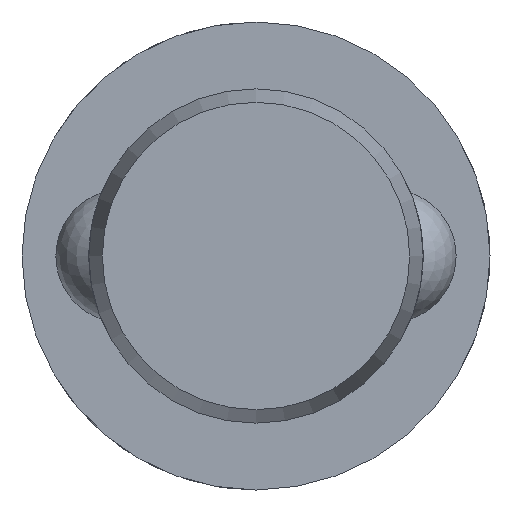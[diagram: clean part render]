
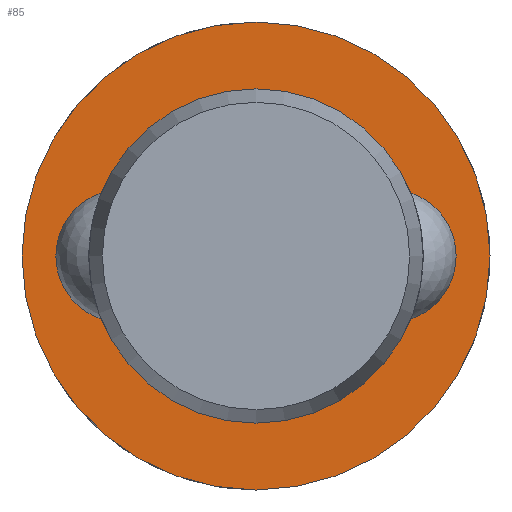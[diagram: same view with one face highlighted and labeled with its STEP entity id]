
A CAD part, left-side view. The second image highlights one B-rep face of the part: STEP entity #85.
In plain terms, the highlighted planar face has unit normal (-1, 0, 0).
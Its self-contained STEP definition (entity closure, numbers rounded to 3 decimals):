
#85 = ADVANCED_FACE( '', ( #130, #131 ), #132, .F. );
#130 = FACE_OUTER_BOUND( '', #200, .T. );
#131 = FACE_BOUND( '', #201, .T. );
#132 = PLANE( '', #202 );
#200 = EDGE_LOOP( '', ( #315 ) );
#201 = EDGE_LOOP( '', ( #316 ) );
#202 = AXIS2_PLACEMENT_3D( '', #317, #318, #319 );
#315 = ORIENTED_EDGE( '', *, *, #458, .F. );
#316 = ORIENTED_EDGE( '', *, *, #455, .T. );
#317 = CARTESIAN_POINT( '', ( 129.6, 5., 0. ) );
#318 = DIRECTION( '', ( 1., 0., 0. ) );
#319 = DIRECTION( '', ( 0., 0., -1. ) );
#455 = EDGE_CURVE( '', #528, #528, #529, .T. );
#458 = EDGE_CURVE( '', #534, #534, #535, .T. );
#528 = VERTEX_POINT( '', #732 );
#529 = CIRCLE( '', #733, 5. );
#534 = VERTEX_POINT( '', #844 );
#535 = CIRCLE( '', #845, 7. );
#732 = CARTESIAN_POINT( '', ( 129.6, 0., -5. ) );
#733 = AXIS2_PLACEMENT_3D( '', #922, #923, #924 );
#844 = CARTESIAN_POINT( '', ( 129.6, 0., -7. ) );
#845 = AXIS2_PLACEMENT_3D( '', #925, #926, #927 );
#922 = CARTESIAN_POINT( '', ( 129.6, 0., 0. ) );
#923 = DIRECTION( '', ( 1., 0., 0. ) );
#924 = DIRECTION( '', ( 0., 0., -1. ) );
#925 = CARTESIAN_POINT( '', ( 129.6, 0., 0. ) );
#926 = DIRECTION( '', ( 1., 0., 0. ) );
#927 = DIRECTION( '', ( 0., 0., -1. ) );
